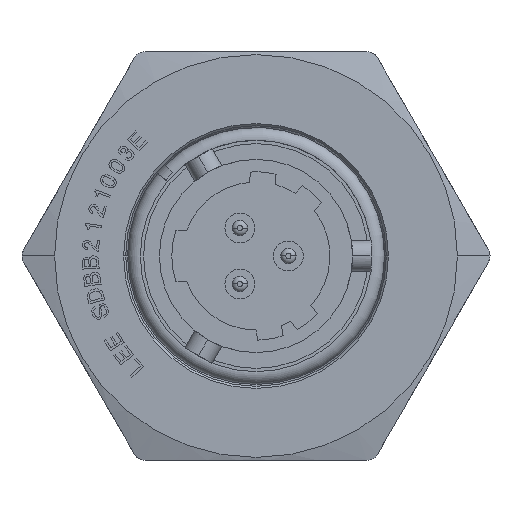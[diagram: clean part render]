
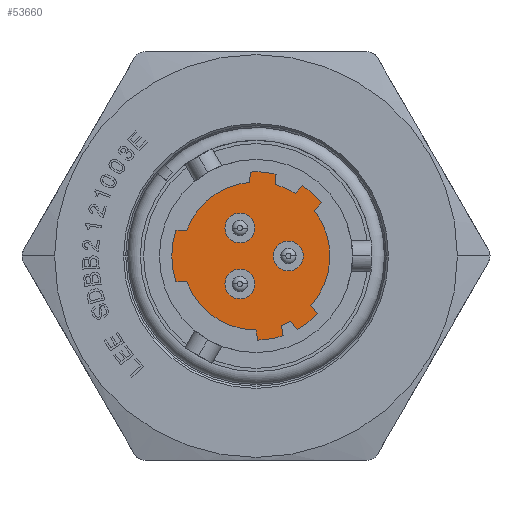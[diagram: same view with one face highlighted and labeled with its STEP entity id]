
A CAD part, left-side view. The second image highlights one B-rep face of the part: STEP entity #53660.
In plain terms, the highlighted planar face has unit normal (-1, 0, 0).
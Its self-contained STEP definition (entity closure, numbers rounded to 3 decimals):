
#35670=CARTESIAN_POINT('',(-27.648,11.528,
1.6));
#35680=VERTEX_POINT('',#35670);
#35710=CARTESIAN_POINT('',(-27.648,12.199,
1.6));
#35720=DIRECTION('',(0.,-1.,0.));
#35730=VECTOR('',#35720,1.);
#35740=LINE('',#35710,#35730);
#35750=CARTESIAN_POINT('',(-27.648,12.199,
1.6));
#35760=VERTEX_POINT('',#35750);
#35770=EDGE_CURVE('',#35760,#35680,#35740,.T.);
#38660=CARTESIAN_POINT('',(-27.648,7.108,
-5.231));
#38670=VERTEX_POINT('',#38660);
#38700=CARTESIAN_POINT('',(-27.648,7.218,0.));
#38710=DIRECTION('',(-1.,0.,0.));
#38720=DIRECTION('',(0.,0.,1.));
#38730=AXIS2_PLACEMENT_3D('',#38700,#38710,#38720);
#38740=CIRCLE('',#38730,5.232);
#38750=CARTESIAN_POINT('',(-27.648,5.532,
-4.953));
#38760=VERTEX_POINT('',#38750);
#38770=EDGE_CURVE('',#38670,#38760,#38740,.T.);
#38980=CARTESIAN_POINT('',(-27.648,11.528,-1.6));
#38990=VERTEX_POINT('',#38980);
#39020=CARTESIAN_POINT('',(-27.648,7.218,0.));
#39030=DIRECTION('',(-1.,0.,0.));
#39040=DIRECTION('',(0.,0.,1.));
#39050=AXIS2_PLACEMENT_3D('',#39020,#39030,#39040);
#39060=CIRCLE('',#39050,4.597);
#39070=CARTESIAN_POINT('',(-27.648,7.22,
-4.597));
#39080=VERTEX_POINT('',#39070);
#39090=EDGE_CURVE('',#38990,#39080,#39060,.T.);
#39950=CARTESIAN_POINT('',(-27.648,5.97,
5.081));
#39960=VERTEX_POINT('',#39950);
#39990=CARTESIAN_POINT('',(-27.648,7.218,0.));
#40000=DIRECTION('',(-1.,0.,0.));
#40010=DIRECTION('',(0.,0.,1.));
#40020=AXIS2_PLACEMENT_3D('',#39990,#40000,#40010);
#40030=CIRCLE('',#40020,5.232);
#40040=CARTESIAN_POINT('',(-27.648,7.564,
5.221));
#40050=VERTEX_POINT('',#40040);
#40060=EDGE_CURVE('',#39960,#40050,#40030,.T.);
#41070=CARTESIAN_POINT('',(-27.648,3.8,
-3.075));
#41080=VERTEX_POINT('',#41070);
#41110=CARTESIAN_POINT('',(-27.648,7.218,0.));
#41120=DIRECTION('',(-1.,0.,0.));
#41130=DIRECTION('',(0.,0.,1.));
#41140=AXIS2_PLACEMENT_3D('',#41110,#41120,#41130);
#41150=CIRCLE('',#41140,4.597);
#41160=CARTESIAN_POINT('',(-27.648,3.594,
2.829));
#41170=VERTEX_POINT('',#41160);
#41180=EDGE_CURVE('',#41080,#41170,#41150,.T.);
#42140=CARTESIAN_POINT('',(-27.648,5.644,
-4.32));
#42150=DIRECTION('',(0.,-0.174,-0.985));
#42160=VECTOR('',#42150,1.);
#42170=LINE('',#42140,#42160);
#42180=CARTESIAN_POINT('',(-27.648,5.644,
-4.32));
#42190=VERTEX_POINT('',#42180);
#42200=EDGE_CURVE('',#42190,#38760,#42170,.T.);
#42410=CARTESIAN_POINT('',(-27.648,4.665,
-4.567));
#42420=VERTEX_POINT('',#42410);
#42450=CARTESIAN_POINT('',(-27.648,7.218,0.));
#42460=DIRECTION('',(-1.,0.,0.));
#42470=DIRECTION('',(0.,0.,1.));
#42480=AXIS2_PLACEMENT_3D('',#42450,#42460,#42470);
#42490=CIRCLE('',#42480,5.232);
#42500=CARTESIAN_POINT('',(-27.648,3.404,
-3.582));
#42510=VERTEX_POINT('',#42500);
#42520=EDGE_CURVE('',#42420,#42510,#42490,.T.);
#44530=CARTESIAN_POINT('',(-27.648,7.218,0.));
#44540=DIRECTION('',(-1.,0.,0.));
#44550=DIRECTION('',(0.,0.,1.));
#44560=AXIS2_PLACEMENT_3D('',#44530,#44540,#44550);
#44570=CIRCLE('',#44560,4.597);
#44580=CARTESIAN_POINT('',(-27.648,5.061,
-4.06));
#44590=VERTEX_POINT('',#44580);
#44600=EDGE_CURVE('',#42190,#44590,#44570,.T.);
#52130=CARTESIAN_POINT('',(-27.648,7.22,
-4.597));
#52140=DIRECTION('',(0.,-0.174,-0.985));
#52150=VECTOR('',#52140,1.);
#52160=LINE('',#52130,#52150);
#52170=EDGE_CURVE('',#39080,#38670,#52160,.T.);
#52230=CARTESIAN_POINT('',(-27.648,7.218,0.));
#52240=DIRECTION('',(-1.,0.,0.));
#52250=DIRECTION('',(0.,0.,1.));
#52260=AXIS2_PLACEMENT_3D('',#52230,#52240,#52250);
#52270=PLANE('',#52260);
#52280=ORIENTED_EDGE('',*,*,#44600,.T.);
#52290=ORIENTED_EDGE('',*,*,#42200,.F.);
#52300=ORIENTED_EDGE('',*,*,#38770,.T.);
#52310=ORIENTED_EDGE('',*,*,#52170,.T.);
#52320=ORIENTED_EDGE('',*,*,#39090,.T.);
#52330=CARTESIAN_POINT('',(-27.648,12.199,-1.6));
#52340=DIRECTION('',(0.,-1.,0.));
#52350=VECTOR('',#52340,1.);
#52360=LINE('',#52330,#52350);
#52370=CARTESIAN_POINT('',(-27.648,12.199,-1.6));
#52380=VERTEX_POINT('',#52370);
#52390=EDGE_CURVE('',#52380,#38990,#52360,.T.);
#52400=ORIENTED_EDGE('',*,*,#52390,.T.);
#52410=CARTESIAN_POINT('',(-27.648,7.218,0.));
#52420=DIRECTION('',(-1.,0.,0.));
#52430=DIRECTION('',(0.,0.,1.));
#52440=AXIS2_PLACEMENT_3D('',#52410,#52420,#52430);
#52450=CIRCLE('',#52440,5.232);
#52460=EDGE_CURVE('',#35760,#52380,#52450,.T.);
#52470=ORIENTED_EDGE('',*,*,#52460,.T.);
#52480=ORIENTED_EDGE('',*,*,#35770,.F.);
#52490=CARTESIAN_POINT('',(-27.648,7.218,0.));
#52500=DIRECTION('',(-1.,0.,0.));
#52510=DIRECTION('',(0.,0.,1.));
#52520=AXIS2_PLACEMENT_3D('',#52490,#52500,#52510);
#52530=CIRCLE('',#52520,4.597);
#52540=CARTESIAN_POINT('',(-27.648,7.62,
4.58));
#52550=VERTEX_POINT('',#52540);
#52560=EDGE_CURVE('',#52550,#35680,#52530,.T.);
#52570=ORIENTED_EDGE('',*,*,#52560,.T.);
#52580=CARTESIAN_POINT('',(-27.648,7.62,
4.58));
#52590=DIRECTION('',(0.,-0.087,0.996));
#52600=VECTOR('',#52590,1.);
#52610=LINE('',#52580,#52600);
#52620=EDGE_CURVE('',#52550,#40050,#52610,.T.);
#52630=ORIENTED_EDGE('',*,*,#52620,.F.);
#52640=ORIENTED_EDGE('',*,*,#40060,.T.);
#52650=CARTESIAN_POINT('',(-27.648,6.026,
4.44));
#52660=DIRECTION('',(0.,-0.087,0.996));
#52670=VECTOR('',#52660,1.);
#52680=LINE('',#52650,#52670);
#52690=CARTESIAN_POINT('',(-27.648,6.026,
4.44));
#52700=VERTEX_POINT('',#52690);
#52710=EDGE_CURVE('',#52700,#39960,#52680,.T.);
#52720=ORIENTED_EDGE('',*,*,#52710,.T.);
#52730=CARTESIAN_POINT('',(-27.648,7.218,0.));
#52740=DIRECTION('',(-1.,0.,0.));
#52750=DIRECTION('',(0.,0.,1.));
#52760=AXIS2_PLACEMENT_3D('',#52730,#52740,#52750);
#52770=CIRCLE('',#52760,4.597);
#52780=CARTESIAN_POINT('',(-27.648,4.783,
3.9));
#52790=VERTEX_POINT('',#52780);
#52800=EDGE_CURVE('',#52790,#52700,#52770,.T.);
#52810=ORIENTED_EDGE('',*,*,#52800,.T.);
#52820=CARTESIAN_POINT('',(-27.648,4.783,
3.9));
#52830=DIRECTION('',(0.,-0.669,0.743));
#52840=VECTOR('',#52830,1.);
#52850=LINE('',#52820,#52840);
#52860=CARTESIAN_POINT('',(-27.648,4.352,
4.378));
#52870=VERTEX_POINT('',#52860);
#52880=EDGE_CURVE('',#52790,#52870,#52850,.T.);
#52890=ORIENTED_EDGE('',*,*,#52880,.F.);
#52900=CARTESIAN_POINT('',(-27.648,7.218,0.));
#52910=DIRECTION('',(-1.,0.,0.));
#52920=DIRECTION('',(0.,0.,1.));
#52930=AXIS2_PLACEMENT_3D('',#52900,#52910,#52920);
#52940=CIRCLE('',#52930,5.232);
#52950=CARTESIAN_POINT('',(-27.648,3.163,
3.307));
#52960=VERTEX_POINT('',#52950);
#52970=EDGE_CURVE('',#52960,#52870,#52940,.T.);
#52980=ORIENTED_EDGE('',*,*,#52970,.T.);
#52990=CARTESIAN_POINT('',(-27.648,3.163,
3.307));
#53000=DIRECTION('',(0.,0.669,-0.743));
#53010=VECTOR('',#53000,1.);
#53020=LINE('',#52990,#53010);
#53030=EDGE_CURVE('',#52960,#41170,#53020,.T.);
#53040=ORIENTED_EDGE('',*,*,#53030,.F.);
#53050=ORIENTED_EDGE('',*,*,#41180,.T.);
#53060=CARTESIAN_POINT('',(-27.648,3.8,
-3.075));
#53070=DIRECTION('',(0.,-0.616,-0.788));
#53080=VECTOR('',#53070,1.);
#53090=LINE('',#53060,#53080);
#53100=EDGE_CURVE('',#41080,#42510,#53090,.T.);
#53110=ORIENTED_EDGE('',*,*,#53100,.F.);
#53120=ORIENTED_EDGE('',*,*,#42520,.T.);
#53130=CARTESIAN_POINT('',(-27.648,5.061,
-4.06));
#53140=DIRECTION('',(0.,-0.616,-0.788));
#53150=VECTOR('',#53140,1.);
#53160=LINE('',#53130,#53150);
#53170=EDGE_CURVE('',#44590,#42420,#53160,.T.);
#53180=ORIENTED_EDGE('',*,*,#53170,.T.);
#53190=EDGE_LOOP('',(#53180,#53120,#53110,#53050,#53040,#52980,#52890,
#52810,#52720,#52640,#52630,#52570,#52480,#52470,#52400,#52320,#52310,
#52300,#52290,#52280));
#53200=FACE_OUTER_BOUND('',#53190,.T.);
#53210=CARTESIAN_POINT('',(-27.648,8.222,
1.74));
#53220=DIRECTION('',(-1.,0.,0.));
#53230=DIRECTION('',(0.,0.,1.));
#53240=AXIS2_PLACEMENT_3D('',#53210,#53220,#53230);
#53250=CIRCLE('',#53240,0.927);
#53260=CARTESIAN_POINT('',(-27.648,8.222,2.667));
#53270=VERTEX_POINT('',#53260);
#53280=CARTESIAN_POINT('',(-27.648,8.222,
0.813));
#53290=VERTEX_POINT('',#53280);
#53300=EDGE_CURVE('',#53270,#53290,#53250,.T.);
#53310=ORIENTED_EDGE('',*,*,#53300,.F.);
#53320=EDGE_CURVE('',#53290,#53270,#53250,.T.);
#53330=ORIENTED_EDGE('',*,*,#53320,.F.);
#53340=EDGE_LOOP('',(#53330,#53310));
#53350=FACE_BOUND('',#53340,.T.);
#53360=CARTESIAN_POINT('',(-27.648,5.209,0.));
#53370=DIRECTION('',(-1.,0.,0.));
#53380=DIRECTION('',(0.,0.,1.));
#53390=AXIS2_PLACEMENT_3D('',#53360,#53370,#53380);
#53400=CIRCLE('',#53390,0.927);
#53410=CARTESIAN_POINT('',(-27.648,5.209,
0.927));
#53420=VERTEX_POINT('',#53410);
#53430=CARTESIAN_POINT('',(-27.648,5.209,
-0.927));
#53440=VERTEX_POINT('',#53430);
#53450=EDGE_CURVE('',#53420,#53440,#53400,.T.);
#53460=ORIENTED_EDGE('',*,*,#53450,.F.);
#53470=EDGE_CURVE('',#53440,#53420,#53400,.T.);
#53480=ORIENTED_EDGE('',*,*,#53470,.F.);
#53490=EDGE_LOOP('',(#53480,#53460));
#53500=FACE_BOUND('',#53490,.T.);
#53510=CARTESIAN_POINT('',(-27.648,8.222,-1.74));
#53520=DIRECTION('',(-1.,0.,0.));
#53530=DIRECTION('',(0.,0.,1.));
#53540=AXIS2_PLACEMENT_3D('',#53510,#53520,#53530);
#53550=CIRCLE('',#53540,0.927);
#53560=CARTESIAN_POINT('',(-27.648,8.222,
-0.813));
#53570=VERTEX_POINT('',#53560);
#53580=CARTESIAN_POINT('',(-27.648,8.222,
-2.667));
#53590=VERTEX_POINT('',#53580);
#53600=EDGE_CURVE('',#53570,#53590,#53550,.T.);
#53610=ORIENTED_EDGE('',*,*,#53600,.F.);
#53620=EDGE_CURVE('',#53590,#53570,#53550,.T.);
#53630=ORIENTED_EDGE('',*,*,#53620,.F.);
#53640=EDGE_LOOP('',(#53630,#53610));
#53650=FACE_BOUND('',#53640,.T.);
#53660=ADVANCED_FACE('',(#53200,#53350,#53500,#53650),#52270,.T.);
